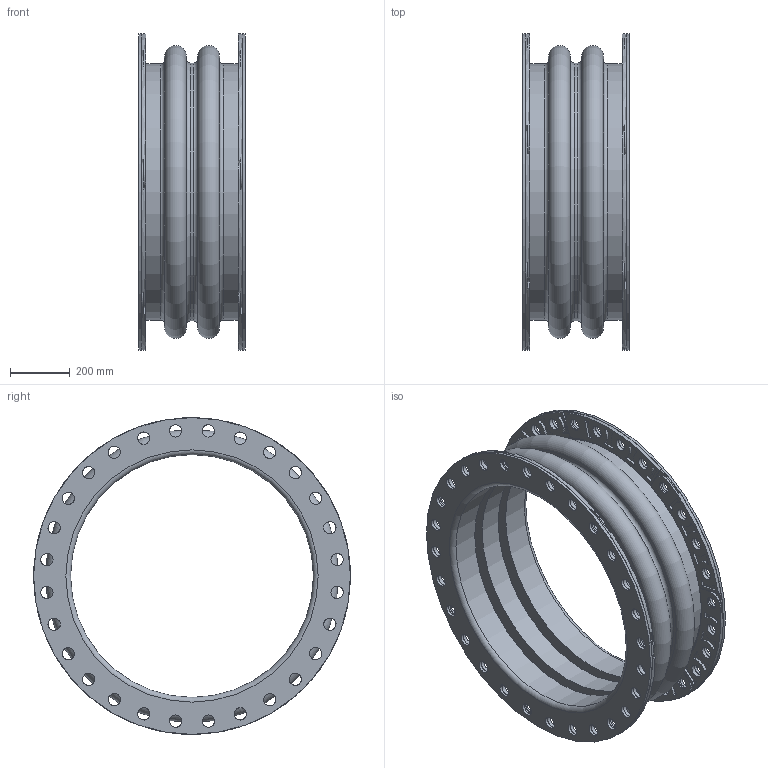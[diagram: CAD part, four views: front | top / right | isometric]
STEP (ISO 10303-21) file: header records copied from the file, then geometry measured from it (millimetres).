
FILE_DESCRIPTION(/* description */ (''),/* implementation_level */ '2;1');
FILE_NAME(/* name */ 'C:\001_Work\Designs\Mercer2014\MQInventor2014\RajR\500 Style\502\STP\502 32IDx14FF.stp',/* time_stamp */ '2016-03-16T15:34:51-04:00',/* author */ ('mquog'),/* organization */ (''),/* preprocessor_version */ 'ST-DEVELOPER v15.2',/* originating_system */ 'Autodesk Inventor 2014',/* authorisation */ '');
FILE_SCHEMA (('AUTOMOTIVE_DESIGN { 1 0 10303 214 3 1 1 }'));
Length unit declared in the file: centimetre
Products named in the file (1): 502 32IDx14FF
Bounding box: 355.6 x 1060.45 x 1060.45 mm (x, y, z)
Volume: 43677416.5 mm3; surface area: 5560026.7 mm2
Topology: 3 solids, 3 shells, 914 faces, 2468 edges, 1614 vertices
Faces by surface type: cylinder 638, plane 228, torus 40, cone 8
Full cylindrical faces by diameter (mm): 41.275 x126, 812.8 x3, 857.25 x2, 863.6 x1, 1060.45 x2
Entity records: 30369 total; most frequent: DIRECTION 5534, CARTESIAN_POINT 5375, ORIENTED_EDGE 4600, AXIS2_PLACEMENT_3D 2375, EDGE_CURVE 2300, VERTEX_POINT 1600, CIRCLE 1460, EDGE_LOOP 1352
